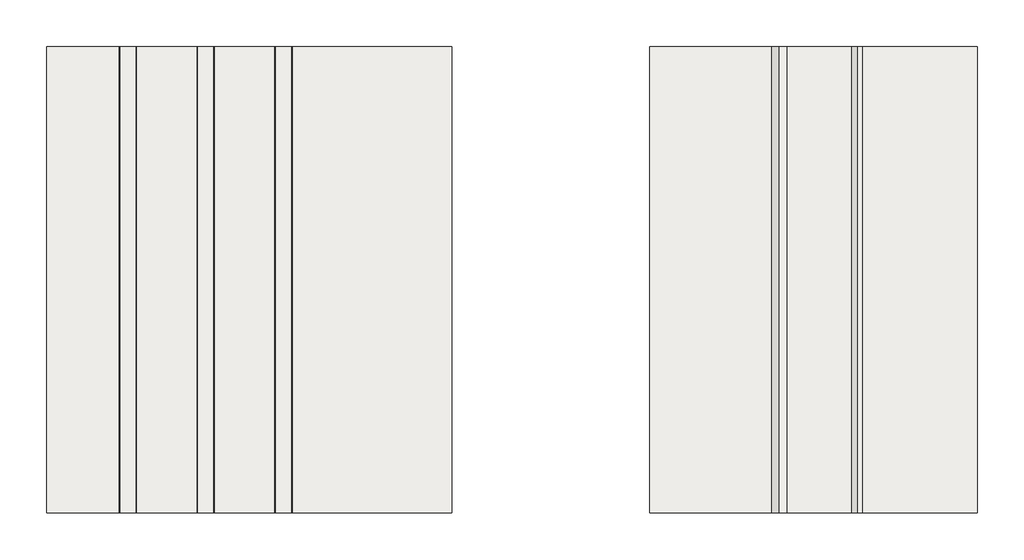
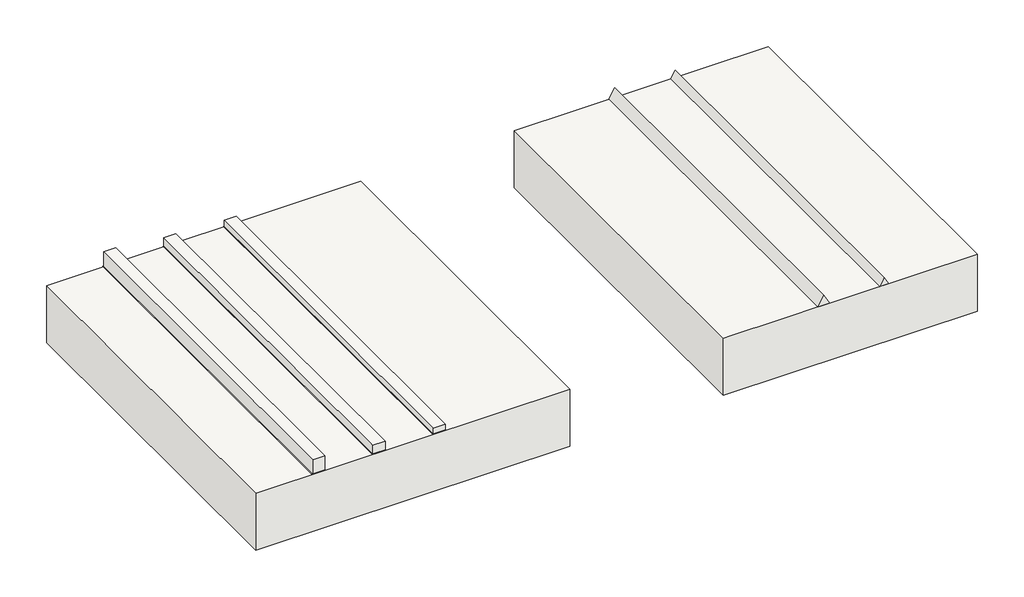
# One storey: 5 coverings, 2 slabs.
"""IFC4 building model written with IfcOpenShell, lengths in millimetres."""

from ifc_helpers import new_model, si_unit, frame, origin, place, context, project, spatial, polyline, outline, extrude, transform, mapped, element, save
from components import covering_9e7b3a2a, covering_23746d61, covering_769de3e5, covering_5c4932a3, covering_dad587f7

model = new_model("IFC4")

# Units and contexts
model_context = context("Model", 3, world=origin())
ifc_project = project(units=[si_unit("LENGTHUNIT", "METRE", prefix="MILLI")], contexts=[model_context])

# Site, building, storey
site = spatial("IfcSite", under=ifc_project)
building = spatial("IfcBuilding", under=site)
storey = spatial("IfcBuildingStorey", under=building, Name="SikaSwell® A System", Elevation=0.0)

# Coverings
placement = place(None, origin())
covering_shape = covering_9e7b3a2a(model_context)
element("IfcCovering", 1, ObjectType="SikaSwell® A System : SikaSwell® A System (2025)", at=placement, inside=storey, context=model_context, shape_type="MappedRepresentation", body=[
    mapped(covering_shape, transform((2651.9220237, 4196.0955189, 0.0), x_axis=(0.0, -1.0, 0.0), y_axis=(1.0, 0.0, 0.0), z_axis=(0.0, 0.0, 1.0))),
])
covering_2_shape = covering_23746d61(model_context)
element("IfcCovering", 2, ObjectType="SikaSwell® A System : SikaSwell® A System (2015)", at=placement, inside=storey, context=model_context, shape_type="MappedRepresentation", body=[
    mapped(covering_2_shape, transform((2751.9220237, 4196.0955189, 0.0), x_axis=(0.0, -1.0, 0.0), y_axis=(1.0, 0.0, 0.0), z_axis=(0.0, 0.0, 1.0))),
])
covering_3_shape = covering_769de3e5(model_context)
element("IfcCovering", 3, ObjectType="SikaSwell® A System : SikaSwell® A System (2010)", at=placement, inside=storey, context=model_context, shape_type="MappedRepresentation", body=[
    mapped(covering_3_shape, transform((2851.9220237, 4196.0955189, 0.0), x_axis=(0.0, -1.0, 0.0), y_axis=(1.0, 0.0, 0.0), z_axis=(0.0, 0.0, 1.0))),
])
covering_4_shape = covering_5c4932a3(model_context)
element("IfcCovering", 4, ObjectType="SikaSwell® S-2 : SikaSwell® S-2 (sección triangular 20 mm)", at=placement, inside=storey, context=model_context, shape_type="MappedRepresentation", body=[
    mapped(covering_4_shape, transform((3478.9283761, 4196.0955189, 0.0), x_axis=(0.0, -1.0, 0.0), y_axis=(1.0, 0.0, 0.0), z_axis=(0.0, 0.0, 1.0))),
])
covering_5_shape = covering_dad587f7(model_context)
element("IfcCovering", 5, ObjectType="SikaSwell® S-2 : SikaSwell® S-2 (sección triangular 15 mm)", at=placement, inside=storey, context=model_context, shape_type="MappedRepresentation", body=[
    mapped(covering_5_shape, transform((3578.9283761, 4196.0955189, 0.0), x_axis=(0.0, -1.0, 0.0), y_axis=(1.0, 0.0, 0.0), z_axis=(0.0, 0.0, 1.0))),
])

# Slabs
element("IfcSlab", 6, ObjectType="Suelo 1", at=placement, inside=storey, context=model_context, shape_type="SweptSolid", body=[
    extrude(outline(polyline([(3058.4010037, 4196.0955189), (3058.4010037, 3596.0955189), (2537.4485246, 3596.0955189), (2537.4485246, 4196.0955189), (3058.4010037, 4196.0955189)])), frame((0.0, 0.0, -100.0), z_axis=(0.0, 0.0, 1.0), x_axis=(1.0, 0.0, 0.0)), (0.0, 0.0, 1.0), 100.0),
])
element("IfcSlab", 7, ObjectType="Suelo 1", at=placement, inside=storey, context=model_context, shape_type="SweptSolid", body=[
    extrude(outline(polyline([(3733.6446658, 4196.0955189), (3733.6446658, 3596.0955189), (3312.6921868, 3596.0955189), (3312.6921868, 4196.0955189), (3733.6446658, 4196.0955189)])), frame((0.0, 0.0, -100.0), z_axis=(0.0, 0.0, 1.0), x_axis=(1.0, 0.0, 0.0)), (0.0, 0.0, 1.0), 100.0),
])

save(model, "model.ifc")
